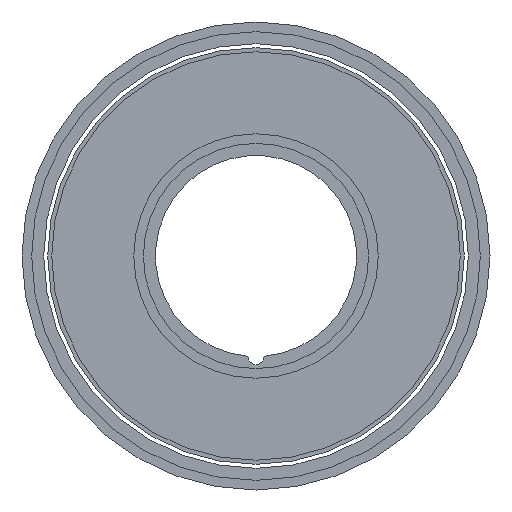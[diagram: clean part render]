
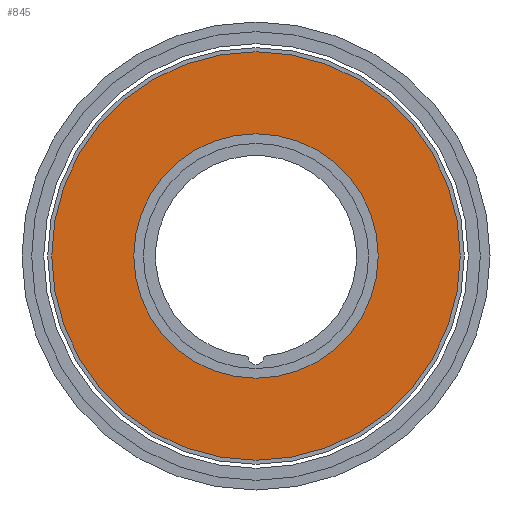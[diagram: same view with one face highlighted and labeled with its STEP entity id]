
A CAD part, front view. The second image highlights one B-rep face of the part: STEP entity #845.
In plain terms, the highlighted planar face has unit normal (0, -1, 0).
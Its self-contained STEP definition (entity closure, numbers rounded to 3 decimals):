
#29 = VERTEX_POINT ( 'NONE', #1432 ) ;
#42 = CARTESIAN_POINT ( 'NONE',  ( 0., -2.5, 0. ) ) ;
#191 = EDGE_LOOP ( 'NONE', ( #1532, #752 ) ) ;
#242 = DIRECTION ( 'NONE',  ( 0., 1., 0. ) ) ;
#270 = DIRECTION ( 'NONE',  ( 0., 0., 1. ) ) ;
#302 = DIRECTION ( 'NONE',  ( 0., 1., 0. ) ) ;
#312 = DIRECTION ( 'NONE',  ( 0., 1., 0. ) ) ;
#390 = CARTESIAN_POINT ( 'NONE',  ( 0., -2.5, 25.4 ) ) ;
#403 = EDGE_CURVE ( 'NONE', #792, #29, #1572, .T. ) ;
#433 = CARTESIAN_POINT ( 'NONE',  ( 0., -2.5, -25.4 ) ) ;
#497 = VERTEX_POINT ( 'NONE', #433 ) ;
#581 = EDGE_LOOP ( 'NONE', ( #859, #1447 ) ) ;
#600 = CIRCLE ( 'NONE', #866, 15.2 ) ;
#680 = CARTESIAN_POINT ( 'NONE',  ( 0., -2.5, 0. ) ) ;
#718 = VERTEX_POINT ( 'NONE', #390 ) ;
#752 = ORIENTED_EDGE ( 'NONE', *, *, #403, .T. ) ;
#792 = VERTEX_POINT ( 'NONE', #1659 ) ;
#793 = AXIS2_PLACEMENT_3D ( 'NONE', #912, #1160, #270 ) ;
#797 = FACE_OUTER_BOUND ( 'NONE', #581, .T. ) ;
#809 = DIRECTION ( 'NONE',  ( 0., 0., 1. ) ) ;
#845 = ADVANCED_FACE ( 'NONE', ( #1199, #797 ), #1598, .F. ) ;
#859 = ORIENTED_EDGE ( 'NONE', *, *, #1399, .F. ) ;
#866 = AXIS2_PLACEMENT_3D ( 'NONE', #1460, #302, #949 ) ;
#912 = CARTESIAN_POINT ( 'NONE',  ( 0., -2.5, 0. ) ) ;
#924 = EDGE_CURVE ( 'NONE', #29, #792, #600, .T. ) ;
#949 = DIRECTION ( 'NONE',  ( 0., 0., 1. ) ) ;
#1018 = CARTESIAN_POINT ( 'NONE',  ( 0., -2.5, 0. ) ) ;
#1029 = AXIS2_PLACEMENT_3D ( 'NONE', #42, #1188, #1055 ) ;
#1055 = DIRECTION ( 'NONE',  ( 0., 0., 1. ) ) ;
#1075 = DIRECTION ( 'NONE',  ( 0., 0., 1. ) ) ;
#1160 = DIRECTION ( 'NONE',  ( 0., 1., 0. ) ) ;
#1188 = DIRECTION ( 'NONE',  ( 0., 1., 0. ) ) ;
#1192 = AXIS2_PLACEMENT_3D ( 'NONE', #1018, #242, #809 ) ;
#1199 = FACE_BOUND ( 'NONE', #191, .T. ) ;
#1242 = CIRCLE ( 'NONE', #1192, 25.4 ) ;
#1289 = EDGE_CURVE ( 'NONE', #497, #718, #1656, .T. ) ;
#1399 = EDGE_CURVE ( 'NONE', #718, #497, #1242, .T. ) ;
#1432 = CARTESIAN_POINT ( 'NONE',  ( 0., -2.5, 15.2 ) ) ;
#1447 = ORIENTED_EDGE ( 'NONE', *, *, #1289, .F. ) ;
#1459 = AXIS2_PLACEMENT_3D ( 'NONE', #680, #312, #1075 ) ;
#1460 = CARTESIAN_POINT ( 'NONE',  ( 0., -2.5, 0. ) ) ;
#1532 = ORIENTED_EDGE ( 'NONE', *, *, #924, .T. ) ;
#1572 = CIRCLE ( 'NONE', #1459, 15.2 ) ;
#1598 = PLANE ( 'NONE',  #1029 ) ;
#1656 = CIRCLE ( 'NONE', #793, 25.4 ) ;
#1659 = CARTESIAN_POINT ( 'NONE',  ( 0., -2.5, -15.2 ) ) ;
